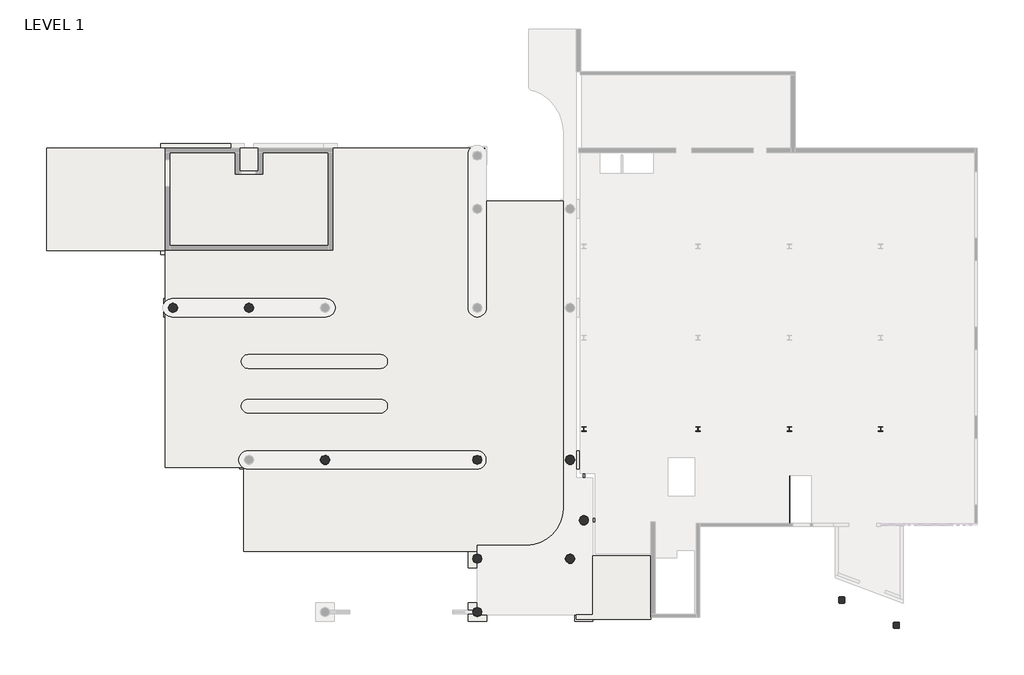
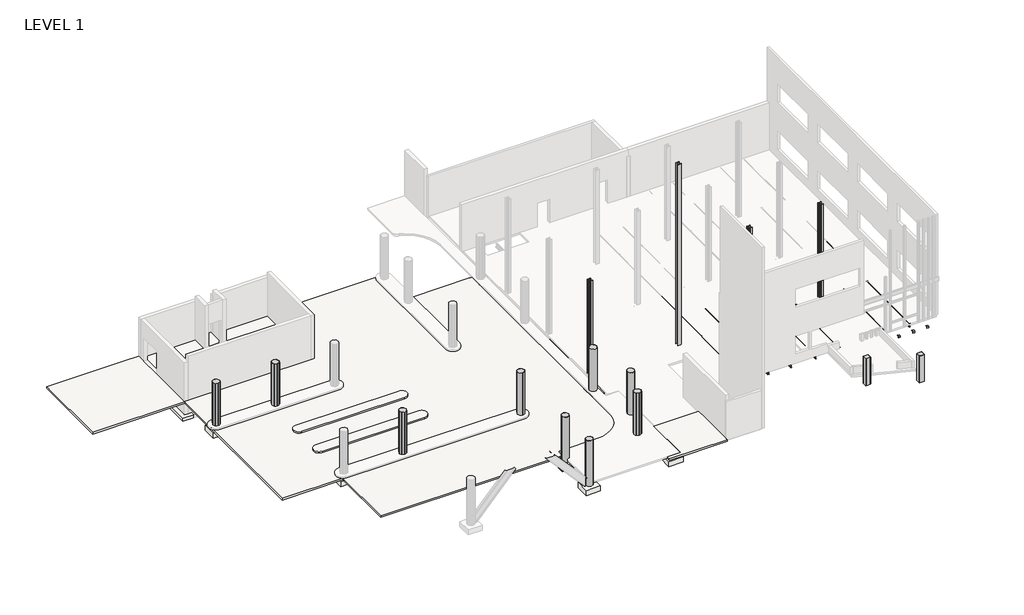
# One storey, part 2 of 3: 34 beams, 17 columns, 14 slabs, 2 footings.
"""IFC4 building model written with IfcOpenShell, lengths in millimetres."""

from ifc_helpers import new_model, si_unit, point, frame, frame_2d, origin, origin_with_axes, place, context, project, spatial, polyline, circle_curve, trimmed, segment, composite_curve, outline, extrude, faceted_brep, transform, mapped, element, save
from ifc_brep_helpers import plane_surface, cylinder_surface, advanced_brep
from components import l_angle_l6x4x1_2_f9bd59cc, w_wide_flange_w10x12_156ffe02, w_wide_flange_w10x12_987685fe, w_wide_flange_w12x14_3777ec73, w_wide_flange_w12x14_7ca4a03d, w_wide_flange_w12x14_c1d14cf3, w_wide_flange_w12x14_0b03b979, w_wide_flange_w12x14_b39f6d49, w_wide_flange_w12x14_55fb512f, w_wide_flange_w12x14_b6641778, w_wide_flange_w12x14_29cc9951, w_wide_flange_w12x14_701a969d, w_wide_flange_w12x16_65248359, w_wide_flange_w12x16_6d5fce7f, w_wide_flange_w12x16_f1ded87a, w_wide_flange_w12x16_4f3b8e2c, w_wide_flange_w16x26_d4bec6c4, w_wide_flange_w16x26_15b86ea2, w_wide_flange_w16x26_b3b18c45, w_wide_flange_w16x31_b4dcfb4a, w_wide_flange_w24x68_a3e40812, precast_rectangular_column_16x16_4fcb2295, w_wide_flange_column_w12x65_f58937c4, w_wide_flange_column_w12x65_26176f54

model = new_model("IFC4")

# Units and contexts
model_context = context("Model", 3, world=origin())
ifc_project = project(units=[si_unit("LENGTHUNIT", "METRE", prefix="MILLI")], contexts=[model_context])

# Site, building, storey
site = spatial("IfcSite", under=ifc_project)
building = spatial("IfcBuilding", under=site)
storey = spatial("IfcBuildingStorey", under=building, Name="LEVEL 1", Elevation=0.0)

# Beams
placement = place(None, origin())
l_angle_l6x4x1_2_shape = l_angle_l6x4x1_2_f9bd59cc(model_context)
element("IfcBeam", 1, ObjectType="L-Angle : L6X4X1/2", at=placement, inside=storey, context=model_context, shape_type="MappedRepresentation", body=[
    mapped(l_angle_l6x4x1_2_shape, transform((34002.6007265, -10406.7624619, -804.6839062), x_axis=(-1.0, 0.0, 0.0), y_axis=(0.0, -1.0, 0.0), z_axis=(0.0, 0.0, 1.0))),
])
element("IfcBeam", 2, ObjectType="L-Angle : L6X4X1/2", at=placement, inside=storey, context=model_context, shape_type="MappedRepresentation", body=[
    mapped(l_angle_l6x4x1_2_shape, transform((32773.8757265, -10406.7624619, -804.6839062), x_axis=(-1.0, 0.0, 0.0), y_axis=(0.0, -1.0, 0.0), z_axis=(0.0, 0.0, 1.0))),
])
element("IfcBeam", 3, ObjectType="L-Angle : L6X4X1/2", at=placement, inside=storey, context=model_context, shape_type="MappedRepresentation", body=[
    mapped(l_angle_l6x4x1_2_shape, transform((31554.6757265, -10406.7624619, -804.6839062), x_axis=(-1.0, 0.0, 0.0), y_axis=(0.0, -1.0, 0.0), z_axis=(0.0, 0.0, 1.0))),
])
element("IfcBeam", 4, ObjectType="L-Angle : L6X4X1/2", at=placement, inside=storey, context=model_context, shape_type="MappedRepresentation", body=[
    mapped(l_angle_l6x4x1_2_shape, transform((30335.4757265, -10406.7624619, -804.6839062), x_axis=(-1.0, 0.0, 0.0), y_axis=(0.0, -1.0, 0.0), z_axis=(0.0, 0.0, 1.0))),
])
element("IfcBeam", 5, ObjectType="L-Angle : L6X4X1/2", at=placement, inside=storey, context=model_context, shape_type="MappedRepresentation", body=[
    mapped(l_angle_l6x4x1_2_shape, transform((29116.2757265, -10406.7624619, -804.6839062), x_axis=(-1.0, 0.0, 0.0), y_axis=(0.0, -1.0, 0.0), z_axis=(0.0, 0.0, 1.0))),
])
w_wide_flange_w10x12_shape = w_wide_flange_w10x12_156ffe02(model_context)
element("IfcBeam", 6, ObjectType="W-Wide Flange : W10X12", at=placement, inside=storey, context=model_context, shape_type="MappedRepresentation", body=[
    mapped(w_wide_flange_w10x12_shape, transform((8608.7470917, -7131.2538682, -277.749), x_axis=(0.0, 1.0, 0.0), y_axis=(-1.0, 0.0, 0.0), z_axis=(0.0, 0.0, 1.0))),
])
w_wide_flange_w10x12_2_shape = w_wide_flange_w10x12_987685fe(model_context)
element("IfcBeam", 7, ObjectType="W-Wide Flange : W10X12", at=placement, inside=storey, context=model_context, shape_type="MappedRepresentation", body=[
    mapped(w_wide_flange_w10x12_2_shape, transform((8608.9507265, -1044.199082, -277.749), x_axis=(0.0, 1.0, 0.0), y_axis=(-1.0, 0.0, 0.0), z_axis=(0.0, 0.0, 1.0))),
])
w_wide_flange_w12x14_shape = w_wide_flange_w12x14_3777ec73(model_context)
element("IfcBeam", 8, ObjectType="W-Wide Flange : W12X14", at=placement, inside=storey, context=model_context, shape_type="MappedRepresentation", body=[
    mapped(w_wide_flange_w12x14_shape, transform((16228.9507265, -7295.5601182, -303.53), x_axis=(0.0, 1.0, 0.0), y_axis=(-1.0, 0.0, 0.0), z_axis=(0.0, 0.0, 1.0))),
])
w_wide_flange_w12x14_2_shape = w_wide_flange_w12x14_7ca4a03d(model_context)
element("IfcBeam", 9, ObjectType="W-Wide Flange : W12X14", at=placement, inside=storey, context=model_context, shape_type="MappedRepresentation", body=[
    mapped(w_wide_flange_w12x14_2_shape, transform((16228.9507265, -1044.199082, -303.53), x_axis=(0.0, 1.0, 0.0), y_axis=(-1.0, 0.0, 0.0), z_axis=(0.0, 0.0, 1.0))),
])
element("IfcBeam", 10, ObjectType="W-Wide Flange : W12X14", at=placement, inside=storey, context=model_context, shape_type="MappedRepresentation", body=[
    mapped(w_wide_flange_w12x14_2_shape, transform((28420.9507265, -1044.199082, -303.53), x_axis=(0.0, 1.0, 0.0), y_axis=(-1.0, 0.0, 0.0), z_axis=(0.0, 0.0, 1.0))),
])
w_wide_flange_w12x14_3_shape = w_wide_flange_w12x14_c1d14cf3(model_context)
element("IfcBeam", 11, ObjectType="W-Wide Flange : W12X14", at=placement, inside=storey, context=model_context, shape_type="MappedRepresentation", body=[
    mapped(w_wide_flange_w12x14_3_shape, transform((11148.9507265, -1035.2538682, -303.53), x_axis=(0.0, 1.0, 0.0), y_axis=(-1.0, 0.0, 0.0), z_axis=(0.0, 0.0, 1.0))),
])
element("IfcBeam", 12, ObjectType="W-Wide Flange : W12X14", at=placement, inside=storey, context=model_context, shape_type="MappedRepresentation", body=[
    mapped(w_wide_flange_w12x14_3_shape, transform((13688.9507265, -1035.2538682, -303.53), x_axis=(0.0, 1.0, 0.0), y_axis=(-1.0, 0.0, 0.0), z_axis=(0.0, 0.0, 1.0))),
])
w_wide_flange_w12x14_4_shape = w_wide_flange_w12x14_0b03b979(model_context)
element("IfcBeam", 13, ObjectType="W-Wide Flange : W12X14", at=placement, inside=storey, context=model_context, shape_type="MappedRepresentation", body=[
    mapped(w_wide_flange_w12x14_4_shape, transform((11148.9507265, -7131.2538682, -303.53), x_axis=(0.0, 1.0, 0.0), y_axis=(-1.0, 0.0, 0.0), z_axis=(0.0, 0.0, 1.0))),
])
element("IfcBeam", 14, ObjectType="W-Wide Flange : W12X14", at=placement, inside=storey, context=model_context, shape_type="MappedRepresentation", body=[
    mapped(w_wide_flange_w12x14_4_shape, transform((13688.9507265, -7131.2538682, -303.53), x_axis=(0.0, 1.0, 0.0), y_axis=(-1.0, 0.0, 0.0), z_axis=(0.0, 0.0, 1.0))),
])
w_wide_flange_w12x14_5_shape = w_wide_flange_w12x14_b39f6d49(model_context)
element("IfcBeam", 15, ObjectType="W-Wide Flange : W12X14", at=placement, inside=storey, context=model_context, shape_type="MappedRepresentation", body=[
    mapped(w_wide_flange_w12x14_5_shape, transform((18259.4478932, -7349.5351182, -151.13), x_axis=(0.0, 1.0, 0.0), y_axis=(-1.0, 0.0, 0.0), z_axis=(0.0, 0.0, 1.0))),
])
element("IfcBeam", 16, ObjectType="W-Wide Flange : W12X14", at=placement, inside=storey, context=model_context, shape_type="MappedRepresentation", body=[
    mapped(w_wide_flange_w12x14_5_shape, transform((24355.4478932, -7349.5351182, -151.13), x_axis=(0.0, 1.0, 0.0), y_axis=(-1.0, 0.0, 0.0), z_axis=(0.0, 0.0, 1.0))),
])
w_wide_flange_w12x14_6_shape = w_wide_flange_w12x14_55fb512f(model_context)
element("IfcBeam", 17, ObjectType="W-Wide Flange : W12X14", at=placement, inside=storey, context=model_context, shape_type="MappedRepresentation", body=[
    mapped(w_wide_flange_w12x14_6_shape, transform((20289.9450598, -7350.3288682, -151.13), x_axis=(0.0, 1.0, 0.0), y_axis=(-1.0, 0.0, 0.0), z_axis=(0.0, 0.0, 1.0))),
])
element("IfcBeam", 18, ObjectType="W-Wide Flange : W12X14", at=placement, inside=storey, context=model_context, shape_type="MappedRepresentation", body=[
    mapped(w_wide_flange_w12x14_6_shape, transform((26385.9450598, -7350.3288682, -151.13), x_axis=(0.0, 1.0, 0.0), y_axis=(-1.0, 0.0, 0.0), z_axis=(0.0, 0.0, 1.0))),
])
w_wide_flange_w12x14_7_shape = w_wide_flange_w12x14_b6641778(model_context)
element("IfcBeam", 19, ObjectType="W-Wide Flange : W12X14", at=placement, inside=storey, context=model_context, shape_type="MappedRepresentation", body=[
    mapped(w_wide_flange_w12x14_7_shape, transform((28420.9507265, -7328.8976182, -303.53), x_axis=(0.0, 1.0, 0.0), y_axis=(-1.0, 0.0, 0.0), z_axis=(0.0, 0.0, 1.0))),
])
w_wide_flange_w12x14_8_shape = w_wide_flange_w12x14_29cc9951(model_context)
element("IfcBeam", 20, ObjectType="W-Wide Flange : W12X14", at=placement, inside=storey, context=model_context, shape_type="MappedRepresentation", body=[
    mapped(w_wide_flange_w12x14_8_shape, transform((30451.4478932, -7328.8976182, -151.13), x_axis=(0.0, 1.0, 0.0), y_axis=(-1.0, 0.0, 0.0), z_axis=(0.0, 0.0, 1.0))),
])
w_wide_flange_w12x14_9_shape = w_wide_flange_w12x14_701a969d(model_context)
element("IfcBeam", 21, ObjectType="W-Wide Flange : W12X14", at=placement, inside=storey, context=model_context, shape_type="MappedRepresentation", body=[
    mapped(w_wide_flange_w12x14_9_shape, transform((32481.9450598, -7329.6913682, -151.13), x_axis=(0.0, 1.0, 0.0), y_axis=(-1.0, 0.0, 0.0), z_axis=(0.0, 0.0, 1.0))),
])
w_wide_flange_w12x16_shape = w_wide_flange_w12x16_65248359(model_context)
element("IfcBeam", 22, ObjectType="W-Wide Flange : W12X16", at=placement, inside=storey, context=model_context, shape_type="MappedRepresentation", body=[
    mapped(w_wide_flange_w12x16_shape, transform((22324.9507265, -1044.199082, -304.8), x_axis=(0.0, 1.0, 0.0), y_axis=(-1.0, 0.0, 0.0), z_axis=(0.0, 0.0, 1.0))),
])
w_wide_flange_w12x16_2_shape = w_wide_flange_w12x16_6d5fce7f(model_context)
element("IfcBeam", 23, ObjectType="W-Wide Flange : W12X16", at=placement, inside=storey, context=model_context, shape_type="MappedRepresentation", body=[
    mapped(w_wide_flange_w12x16_2_shape, transform((22320.4422265, -7294.7663682, -304.8), x_axis=(0.0, 1.0, 0.0), y_axis=(-1.0, 0.0, 0.0), z_axis=(0.0, 0.0, 1.0))),
])
w_wide_flange_w12x16_3_shape = w_wide_flange_w12x16_f1ded87a(model_context)
element("IfcBeam", 24, ObjectType="W-Wide Flange : W12X16", at=placement, inside=storey, context=model_context, shape_type="MappedRepresentation", body=[
    mapped(w_wide_flange_w12x16_3_shape, transform((18259.4478932, -1035.2538682, -152.4), x_axis=(0.0, 1.0, 0.0), y_axis=(-1.0, 0.0, 0.0), z_axis=(0.0, 0.0, 1.0))),
])
element("IfcBeam", 25, ObjectType="W-Wide Flange : W12X16", at=placement, inside=storey, context=model_context, shape_type="MappedRepresentation", body=[
    mapped(w_wide_flange_w12x16_3_shape, transform((20289.9450598, -1035.2538682, -152.4), x_axis=(0.0, 1.0, 0.0), y_axis=(-1.0, 0.0, 0.0), z_axis=(0.0, 0.0, 1.0))),
])
element("IfcBeam", 26, ObjectType="W-Wide Flange : W12X16", at=placement, inside=storey, context=model_context, shape_type="MappedRepresentation", body=[
    mapped(w_wide_flange_w12x16_3_shape, transform((24355.4478932, -1035.2538682, -152.4), x_axis=(0.0, 1.0, 0.0), y_axis=(-1.0, 0.0, 0.0), z_axis=(0.0, 0.0, 1.0))),
])
element("IfcBeam", 27, ObjectType="W-Wide Flange : W12X16", at=placement, inside=storey, context=model_context, shape_type="MappedRepresentation", body=[
    mapped(w_wide_flange_w12x16_3_shape, transform((26385.9450598, -1035.2538682, -152.4), x_axis=(0.0, 1.0, 0.0), y_axis=(-1.0, 0.0, 0.0), z_axis=(0.0, 0.0, 1.0))),
])
w_wide_flange_w12x16_4_shape = w_wide_flange_w12x16_4f3b8e2c(model_context)
element("IfcBeam", 28, ObjectType="W-Wide Flange : W12X16", at=placement, inside=storey, context=model_context, shape_type="MappedRepresentation", body=[
    mapped(w_wide_flange_w12x16_4_shape, transform((30451.4478932, -1035.2538682, -152.4), x_axis=(0.0, 1.0, 0.0), y_axis=(-1.0, 0.0, 0.0), z_axis=(0.0, 0.0, 1.0))),
])
element("IfcBeam", 29, ObjectType="W-Wide Flange : W12X16", at=placement, inside=storey, context=model_context, shape_type="MappedRepresentation", body=[
    mapped(w_wide_flange_w12x16_4_shape, transform((32481.9450598, -1035.2538682, -152.4), x_axis=(0.0, 1.0, 0.0), y_axis=(-1.0, 0.0, 0.0), z_axis=(0.0, 0.0, 1.0))),
])
w_wide_flange_w16x26_shape = w_wide_flange_w16x26_d4bec6c4(model_context)
element("IfcBeam", 30, ObjectType="W-Wide Flange : W16X26", at=placement, inside=storey, context=model_context, shape_type="MappedRepresentation", body=[
    mapped(w_wide_flange_w16x26_shape, transform((12418.7470917, -4083.2538682, -351.79), x_axis=(1.0, 0.0, 0.0), y_axis=(0.0, 1.0, 0.0), z_axis=(0.0, 0.0, 1.0))),
])
w_wide_flange_w16x26_2_shape = w_wide_flange_w16x26_15b86ea2(model_context)
element("IfcBeam", 31, ObjectType="W-Wide Flange : W16X26", at=placement, inside=storey, context=model_context, shape_type="MappedRepresentation", body=[
    mapped(w_wide_flange_w16x26_2_shape, transform((19277.1543613, -4083.2538682, -351.79), x_axis=(-1.0, 0.0, 0.0), y_axis=(0.0, -1.0, 0.0), z_axis=(0.0, 0.0, 1.0))),
])
w_wide_flange_w16x26_3_shape = w_wide_flange_w16x26_b3b18c45(model_context)
element("IfcBeam", 32, ObjectType="W-Wide Flange : W16X26", at=placement, inside=storey, context=model_context, shape_type="MappedRepresentation", body=[
    mapped(w_wide_flange_w16x26_3_shape, transform((25372.7470917, -4083.2538682, -351.79), x_axis=(1.0, 0.0, 0.0), y_axis=(0.0, 1.0, 0.0), z_axis=(0.0, 0.0, 1.0))),
])
w_wide_flange_w16x31_shape = w_wide_flange_w16x31_b4dcfb4a(model_context)
element("IfcBeam", 33, ObjectType="W-Wide Flange : W16X31", at=placement, inside=storey, context=model_context, shape_type="MappedRepresentation", body=[
    mapped(w_wide_flange_w16x31_shape, transform((31619.8650439, -4083.2538682, -354.33), x_axis=(-1.0, 0.0, 0.0), y_axis=(0.0, -1.0, 0.0), z_axis=(0.0, 0.0, 1.0))),
])
w_wide_flange_w24x68_shape = w_wide_flange_w24x68_a3e40812(model_context)
element("IfcBeam", 34, ObjectType="W-Wide Flange : W24X68", at=placement, inside=storey, context=model_context, shape_type="MappedRepresentation", body=[
    mapped(w_wide_flange_w24x68_shape, transform((12418.8489091, -10179.2538682, -453.39), x_axis=(1.0, 0.0, 0.0), y_axis=(0.0, 1.0, 0.0), z_axis=(0.0, 0.0, 1.0))),
])

# Columns
element("IfcColumn", 35, ObjectType="Concrete-Round-Column : 24\"", at=placement, inside=storey, context=model_context, shape_type="SweptSolid", body=[
    extrude(outline(composite_curve([segment(trimmed(circle_curve(frame_2d((-18823.0492735, 4017.7586318)), 304.8), [point((-19127.8492735, 4017.7586318))], [point((-18518.2492735, 4017.7586318))], False, "CARTESIAN"), True, "CONTINUOUS"), segment(trimmed(circle_curve(frame_2d((-18823.0492735, 4017.7586318)), 304.8), [point((-18518.2492735, 4017.7586318))], [point((-19127.8492735, 4017.7586318))], False, "CARTESIAN"), True, "CONTINUOUS")], self_intersect=False)), frame((0.0, 0.0, -152.4), z_axis=(0.0, 0.0, 1.0), x_axis=(1.0, 0.0, 0.0)), (0.0, 0.0, 1.0), 4140.2),
    extrude(outline(composite_curve([segment(trimmed(circle_curve(frame_2d((-18823.0492735, 4017.7586318)), 311.15), [point((-19134.1992735, 4017.7586318))], [point((-18511.8992735, 4017.7586318))], False, "CARTESIAN"), True, "CONTINUOUS"), segment(trimmed(circle_curve(frame_2d((-18823.0492735, 4017.7586318)), 311.15), [point((-18511.8992735, 4017.7586318))], [point((-19134.1992735, 4017.7586318))], False, "CARTESIAN"), True, "CONTINUOUS")], self_intersect=False), holes=[composite_curve([segment(trimmed(circle_curve(frame_2d((-18823.0492735, 4017.7586318)), 304.8), [point((-19127.8492735, 4017.7586318))], [point((-18518.2492735, 4017.7586318))], True, "CARTESIAN"), True, "CONTINUOUS"), segment(trimmed(circle_curve(frame_2d((-18823.0492735, 4017.7586318)), 304.8), [point((-18518.2492735, 4017.7586318))], [point((-19127.8492735, 4017.7586318))], True, "CARTESIAN"), True, "CONTINUOUS")], self_intersect=False)]), frame((0.0, 0.0, -152.4), z_axis=(0.0, 0.0, 1.0), x_axis=(1.0, 0.0, 0.0)), (0.0, 0.0, 1.0), 4140.2),
])
element("IfcColumn", 36, ObjectType="Concrete-Round-Column : 24\"", at=placement, inside=storey, context=model_context, shape_type="SweptSolid", body=[
    extrude(outline(composite_curve([segment(trimmed(circle_curve(frame_2d((-13743.0492735, 4017.7586318)), 304.8), [point((-14047.8492735, 4017.7586318))], [point((-13438.2492735, 4017.7586318))], False, "CARTESIAN"), True, "CONTINUOUS"), segment(trimmed(circle_curve(frame_2d((-13743.0492735, 4017.7586318)), 304.8), [point((-13438.2492735, 4017.7586318))], [point((-14047.8492735, 4017.7586318))], False, "CARTESIAN"), True, "CONTINUOUS")], self_intersect=False)), frame((0.0, 0.0, -152.4), z_axis=(0.0, 0.0, 1.0), x_axis=(1.0, 0.0, 0.0)), (0.0, 0.0, 1.0), 4140.2),
    extrude(outline(composite_curve([segment(trimmed(circle_curve(frame_2d((-13743.0492735, 4017.7586318)), 311.15), [point((-14054.1992735, 4017.7586318))], [point((-13431.8992735, 4017.7586318))], False, "CARTESIAN"), True, "CONTINUOUS"), segment(trimmed(circle_curve(frame_2d((-13743.0492735, 4017.7586318)), 311.15), [point((-13431.8992735, 4017.7586318))], [point((-14054.1992735, 4017.7586318))], False, "CARTESIAN"), True, "CONTINUOUS")], self_intersect=False), holes=[composite_curve([segment(trimmed(circle_curve(frame_2d((-13743.0492735, 4017.7586318)), 304.8), [point((-14047.8492735, 4017.7586318))], [point((-13438.2492735, 4017.7586318))], True, "CARTESIAN"), True, "CONTINUOUS"), segment(trimmed(circle_curve(frame_2d((-13743.0492735, 4017.7586318)), 304.8), [point((-13438.2492735, 4017.7586318))], [point((-14047.8492735, 4017.7586318))], True, "CARTESIAN"), True, "CONTINUOUS")], self_intersect=False)]), frame((0.0, 0.0, -152.4), z_axis=(0.0, 0.0, 1.0), x_axis=(1.0, 0.0, 0.0)), (0.0, 0.0, 1.0), 4140.2),
])
element("IfcColumn", 37, ObjectType="Concrete-Round-Column : 24\"", at=placement, inside=storey, context=model_context, shape_type="SweptSolid", body=[
    extrude(outline(composite_curve([segment(trimmed(circle_curve(frame_2d((-8663.0492735, -6142.2413682)), 304.8), [point((-8967.8492735, -6142.2413682))], [point((-8358.2492735, -6142.2413682))], False, "CARTESIAN"), True, "CONTINUOUS"), segment(trimmed(circle_curve(frame_2d((-8663.0492735, -6142.2413682)), 304.8), [point((-8358.2492735, -6142.2413682))], [point((-8967.8492735, -6142.2413682))], False, "CARTESIAN"), True, "CONTINUOUS")], self_intersect=False)), frame((0.0, 0.0, -152.4), z_axis=(0.0, 0.0, 1.0), x_axis=(1.0, 0.0, 0.0)), (0.0, 0.0, 1.0), 4140.2),
    extrude(outline(composite_curve([segment(trimmed(circle_curve(frame_2d((-8663.0492735, -6142.2413682)), 311.15), [point((-8974.1992735, -6142.2413682))], [point((-8351.8992735, -6142.2413682))], False, "CARTESIAN"), True, "CONTINUOUS"), segment(trimmed(circle_curve(frame_2d((-8663.0492735, -6142.2413682)), 311.15), [point((-8351.8992735, -6142.2413682))], [point((-8974.1992735, -6142.2413682))], False, "CARTESIAN"), True, "CONTINUOUS")], self_intersect=False), holes=[composite_curve([segment(trimmed(circle_curve(frame_2d((-8663.0492735, -6142.2413682)), 304.8), [point((-8967.8492735, -6142.2413682))], [point((-8358.2492735, -6142.2413682))], True, "CARTESIAN"), True, "CONTINUOUS"), segment(trimmed(circle_curve(frame_2d((-8663.0492735, -6142.2413682)), 304.8), [point((-8358.2492735, -6142.2413682))], [point((-8967.8492735, -6142.2413682))], True, "CARTESIAN"), True, "CONTINUOUS")], self_intersect=False)]), frame((0.0, 0.0, -152.4), z_axis=(0.0, 0.0, 1.0), x_axis=(1.0, 0.0, 0.0)), (0.0, 0.0, 1.0), 4140.2),
])
element("IfcColumn", 38, ObjectType="Concrete-Round-Column : 24\"", at=placement, inside=storey, context=model_context, shape_type="SweptSolid", body=[
    extrude(outline(composite_curve([segment(trimmed(circle_curve(frame_2d((1496.9507265, -6142.2413682)), 304.8), [point((1192.1507265, -6142.2413682))], [point((1801.7507265, -6142.2413682))], False, "CARTESIAN"), True, "CONTINUOUS"), segment(trimmed(circle_curve(frame_2d((1496.9507265, -6142.2413682)), 304.8), [point((1801.7507265, -6142.2413682))], [point((1192.1507265, -6142.2413682))], False, "CARTESIAN"), True, "CONTINUOUS")], self_intersect=False)), frame((0.0, 0.0, -152.4), z_axis=(0.0, 0.0, 1.0), x_axis=(1.0, 0.0, 0.0)), (0.0, 0.0, 1.0), 4140.2),
    extrude(outline(composite_curve([segment(trimmed(circle_curve(frame_2d((1496.9507265, -6142.2413682)), 311.15), [point((1185.8007265, -6142.2413682))], [point((1808.1007265, -6142.2413682))], False, "CARTESIAN"), True, "CONTINUOUS"), segment(trimmed(circle_curve(frame_2d((1496.9507265, -6142.2413682)), 311.15), [point((1808.1007265, -6142.2413682))], [point((1185.8007265, -6142.2413682))], False, "CARTESIAN"), True, "CONTINUOUS")], self_intersect=False), holes=[composite_curve([segment(trimmed(circle_curve(frame_2d((1496.9507265, -6142.2413682)), 304.8), [point((1192.1507265, -6142.2413682))], [point((1801.7507265, -6142.2413682))], True, "CARTESIAN"), True, "CONTINUOUS"), segment(trimmed(circle_curve(frame_2d((1496.9507265, -6142.2413682)), 304.8), [point((1801.7507265, -6142.2413682))], [point((1192.1507265, -6142.2413682))], True, "CARTESIAN"), True, "CONTINUOUS")], self_intersect=False)]), frame((0.0, 0.0, -152.4), z_axis=(0.0, 0.0, 1.0), x_axis=(1.0, 0.0, 0.0)), (0.0, 0.0, 1.0), 4140.2),
])
element("IfcColumn", 39, ObjectType="Concrete-Round-Column : 24\"", at=placement, inside=storey, context=model_context, shape_type="SweptSolid", body=[
    extrude(outline(composite_curve([segment(trimmed(circle_curve(frame_2d((1496.9507265, -12746.2413682)), 304.8), [point((1192.1507265, -12746.2413682))], [point((1801.7507265, -12746.2413682))], False, "CARTESIAN"), True, "CONTINUOUS"), segment(trimmed(circle_curve(frame_2d((1496.9507265, -12746.2413682)), 304.8), [point((1801.7507265, -12746.2413682))], [point((1192.1507265, -12746.2413682))], False, "CARTESIAN"), True, "CONTINUOUS")], self_intersect=False)), frame((0.0, 0.0, -152.4), z_axis=(0.0, 0.0, 1.0), x_axis=(1.0, 0.0, 0.0)), (0.0, 0.0, 1.0), 4140.2),
    extrude(outline(composite_curve([segment(trimmed(circle_curve(frame_2d((1496.9507265, -12746.2413682)), 311.15), [point((1185.8007265, -12746.2413682))], [point((1808.1007265, -12746.2413682))], False, "CARTESIAN"), True, "CONTINUOUS"), segment(trimmed(circle_curve(frame_2d((1496.9507265, -12746.2413682)), 311.15), [point((1808.1007265, -12746.2413682))], [point((1185.8007265, -12746.2413682))], False, "CARTESIAN"), True, "CONTINUOUS")], self_intersect=False), holes=[composite_curve([segment(trimmed(circle_curve(frame_2d((1496.9507265, -12746.2413682)), 304.8), [point((1192.1507265, -12746.2413682))], [point((1801.7507265, -12746.2413682))], True, "CARTESIAN"), True, "CONTINUOUS"), segment(trimmed(circle_curve(frame_2d((1496.9507265, -12746.2413682)), 304.8), [point((1801.7507265, -12746.2413682))], [point((1192.1507265, -12746.2413682))], True, "CARTESIAN"), True, "CONTINUOUS")], self_intersect=False)]), frame((0.0, 0.0, -152.4), z_axis=(0.0, 0.0, 1.0), x_axis=(1.0, 0.0, 0.0)), (0.0, 0.0, 1.0), 4140.2),
])
element("IfcColumn", 40, ObjectType="Concrete-Round-Column : 24\"", at=placement, inside=storey, context=model_context, shape_type="SweptSolid", body=[
    extrude(outline(composite_curve([segment(trimmed(circle_curve(frame_2d((1496.9507265, -16302.2413682)), 304.8), [point((1192.1507265, -16302.2413682))], [point((1801.7507265, -16302.2413682))], False, "CARTESIAN"), True, "CONTINUOUS"), segment(trimmed(circle_curve(frame_2d((1496.9507265, -16302.2413682)), 304.8), [point((1801.7507265, -16302.2413682))], [point((1192.1507265, -16302.2413682))], False, "CARTESIAN"), True, "CONTINUOUS")], self_intersect=False)), frame((0.0, 0.0, -152.4), z_axis=(0.0, 0.0, 1.0), x_axis=(1.0, 0.0, 0.0)), (0.0, 0.0, 1.0), 4140.2),
    extrude(outline(composite_curve([segment(trimmed(circle_curve(frame_2d((1496.9507265, -16302.2413682)), 311.15), [point((1185.8007265, -16302.2413682))], [point((1808.1007265, -16302.2413682))], False, "CARTESIAN"), True, "CONTINUOUS"), segment(trimmed(circle_curve(frame_2d((1496.9507265, -16302.2413682)), 311.15), [point((1808.1007265, -16302.2413682))], [point((1185.8007265, -16302.2413682))], False, "CARTESIAN"), True, "CONTINUOUS")], self_intersect=False), holes=[composite_curve([segment(trimmed(circle_curve(frame_2d((1496.9507265, -16302.2413682)), 304.8), [point((1192.1507265, -16302.2413682))], [point((1801.7507265, -16302.2413682))], True, "CARTESIAN"), True, "CONTINUOUS"), segment(trimmed(circle_curve(frame_2d((1496.9507265, -16302.2413682)), 304.8), [point((1801.7507265, -16302.2413682))], [point((1192.1507265, -16302.2413682))], True, "CARTESIAN"), True, "CONTINUOUS")], self_intersect=False)]), frame((0.0, 0.0, -152.4), z_axis=(0.0, 0.0, 1.0), x_axis=(1.0, 0.0, 0.0)), (0.0, 0.0, 1.0), 4140.2),
])
element("IfcColumn", 41, ObjectType="Concrete-Round-Column : 24\"", at=placement, inside=storey, context=model_context, shape_type="SweptSolid", body=[
    extrude(outline(composite_curve([segment(trimmed(circle_curve(frame_2d((7694.5507265, -12746.2413682)), 304.8), [point((7389.7507265, -12746.2413682))], [point((7999.3507265, -12746.2413682))], False, "CARTESIAN"), True, "CONTINUOUS"), segment(trimmed(circle_curve(frame_2d((7694.5507265, -12746.2413682)), 304.8), [point((7999.3507265, -12746.2413682))], [point((7389.7507265, -12746.2413682))], False, "CARTESIAN"), True, "CONTINUOUS")], self_intersect=False)), origin_with_axes(), (0.0, 0.0, 1.0), 3987.8),
    extrude(outline(composite_curve([segment(trimmed(circle_curve(frame_2d((7694.5507265, -12746.2413682)), 311.15), [point((7383.4007265, -12746.2413682))], [point((8005.7007265, -12746.2413682))], False, "CARTESIAN"), True, "CONTINUOUS"), segment(trimmed(circle_curve(frame_2d((7694.5507265, -12746.2413682)), 311.15), [point((8005.7007265, -12746.2413682))], [point((7383.4007265, -12746.2413682))], False, "CARTESIAN"), True, "CONTINUOUS")], self_intersect=False), holes=[composite_curve([segment(trimmed(circle_curve(frame_2d((7694.5507265, -12746.2413682)), 304.8), [point((7389.7507265, -12746.2413682))], [point((7999.3507265, -12746.2413682))], True, "CARTESIAN"), True, "CONTINUOUS"), segment(trimmed(circle_curve(frame_2d((7694.5507265, -12746.2413682)), 304.8), [point((7999.3507265, -12746.2413682))], [point((7389.7507265, -12746.2413682))], True, "CARTESIAN"), True, "CONTINUOUS")], self_intersect=False)]), origin_with_axes(), (0.0, 0.0, 1.0), 3987.8),
])
element("IfcColumn", 42, ObjectType="Concrete-Round-Column : 24\"", at=placement, inside=storey, context=model_context, shape_type="SweptSolid", body=[
    extrude(outline(composite_curve([segment(trimmed(circle_curve(frame_2d((8608.9507265, -10179.2538682)), 304.8), [point((8304.1507265, -10179.2538682))], [point((8913.7507265, -10179.2538682))], False, "CARTESIAN"), True, "CONTINUOUS"), segment(trimmed(circle_curve(frame_2d((8608.9507265, -10179.2538682)), 304.8), [point((8913.7507265, -10179.2538682))], [point((8304.1507265, -10179.2538682))], False, "CARTESIAN"), True, "CONTINUOUS")], self_intersect=False)), origin_with_axes(), (0.0, 0.0, 1.0), 3987.8),
    extrude(outline(composite_curve([segment(trimmed(circle_curve(frame_2d((8608.9507265, -10179.2538682)), 311.15), [point((8297.8007265, -10179.2538682))], [point((8920.1007265, -10179.2538682))], False, "CARTESIAN"), True, "CONTINUOUS"), segment(trimmed(circle_curve(frame_2d((8608.9507265, -10179.2538682)), 311.15), [point((8920.1007265, -10179.2538682))], [point((8297.8007265, -10179.2538682))], False, "CARTESIAN"), True, "CONTINUOUS")], self_intersect=False), holes=[composite_curve([segment(trimmed(circle_curve(frame_2d((8608.9507265, -10179.2538682)), 304.8), [point((8304.1507265, -10179.2538682))], [point((8913.7507265, -10179.2538682))], True, "CARTESIAN"), True, "CONTINUOUS"), segment(trimmed(circle_curve(frame_2d((8608.9507265, -10179.2538682)), 304.8), [point((8913.7507265, -10179.2538682))], [point((8304.1507265, -10179.2538682))], True, "CARTESIAN"), True, "CONTINUOUS")], self_intersect=False)]), origin_with_axes(), (0.0, 0.0, 1.0), 3987.8),
])
element("IfcColumn", 43, ObjectType="Concrete-Round-Column : 24\"", at=placement, inside=storey, context=model_context, shape_type="SweptSolid", body=[
    extrude(outline(composite_curve([segment(trimmed(circle_curve(frame_2d((7694.5507265, -6142.2413682)), 304.8), [point((7389.7507265, -6142.2413682))], [point((7999.3507265, -6142.2413682))], False, "CARTESIAN"), True, "CONTINUOUS"), segment(trimmed(circle_curve(frame_2d((7694.5507265, -6142.2413682)), 304.8), [point((7999.3507265, -6142.2413682))], [point((7389.7507265, -6142.2413682))], False, "CARTESIAN"), True, "CONTINUOUS")], self_intersect=False)), origin_with_axes(), (0.0, 0.0, 1.0), 3987.8),
    extrude(outline(composite_curve([segment(trimmed(circle_curve(frame_2d((7694.5507265, -6142.2413682)), 311.15), [point((7383.4007265, -6142.2413682))], [point((8005.7007265, -6142.2413682))], False, "CARTESIAN"), True, "CONTINUOUS"), segment(trimmed(circle_curve(frame_2d((7694.5507265, -6142.2413682)), 311.15), [point((8005.7007265, -6142.2413682))], [point((7383.4007265, -6142.2413682))], False, "CARTESIAN"), True, "CONTINUOUS")], self_intersect=False), holes=[composite_curve([segment(trimmed(circle_curve(frame_2d((7694.5507265, -6142.2413682)), 304.8), [point((7389.7507265, -6142.2413682))], [point((7999.3507265, -6142.2413682))], True, "CARTESIAN"), True, "CONTINUOUS"), segment(trimmed(circle_curve(frame_2d((7694.5507265, -6142.2413682)), 304.8), [point((7999.3507265, -6142.2413682))], [point((7389.7507265, -6142.2413682))], True, "CARTESIAN"), True, "CONTINUOUS")], self_intersect=False)]), origin_with_axes(), (0.0, 0.0, 1.0), 3987.8),
])
precast_rectangular_column_16x16_shape = precast_rectangular_column_16x16_4fcb2295(model_context)
element("IfcColumn", 44, ObjectType="Precast-Rectangular Column : 16X16", at=placement, inside=storey, context=model_context, shape_type="MappedRepresentation", body=[
    mapped(precast_rectangular_column_16x16_shape, transform((25828.296921, -15512.1689811, 0.0), x_axis=(1.0, 0.0, 0.0), y_axis=(0.0, 1.0, 0.0), z_axis=(0.0, 0.0, 1.0))),
])
element("IfcColumn", 45, ObjectType="Precast-Rectangular Column : 16X16", at=placement, inside=storey, context=model_context, shape_type="MappedRepresentation", body=[
    mapped(precast_rectangular_column_16x16_shape, transform((29471.6720917, -17193.094482, 0.0), x_axis=(1.0, 0.0, 0.0), y_axis=(0.0, 1.0, 0.0), z_axis=(0.0, 0.0, 1.0))),
])
element("IfcColumn", 46, ObjectType="Precast-Rectangular Column : 16X16", at=placement, inside=storey, context=model_context, shape_type="MappedRepresentation", body=[
    mapped(precast_rectangular_column_16x16_shape, transform((29471.6720917, -17193.094482, 0.0), x_axis=(1.0, 0.0, 0.0), y_axis=(0.0, 1.0, 0.0), z_axis=(0.0, 0.0, 1.0))),
])
element("IfcColumn", 47, ObjectType="Precast-Rectangular Column : 16X16", at=placement, inside=storey, context=model_context, shape_type="MappedRepresentation", body=[
    mapped(precast_rectangular_column_16x16_shape, transform((25828.296921, -15512.1689811, 0.0), x_axis=(1.0, 0.0, 0.0), y_axis=(0.0, 1.0, 0.0), z_axis=(0.0, 0.0, 1.0))),
])
w_wide_flange_column_w12x65_shape = w_wide_flange_column_w12x65_f58937c4(model_context)
element("IfcColumn", 48, ObjectType="W-Wide Flange-Column : W12X65", at=placement, inside=storey, context=model_context, shape_type="MappedRepresentation", body=[
    mapped(w_wide_flange_column_w12x65_shape, transform((8608.9507265, -4083.2538682, 0.0), x_axis=(1.0, 0.0, 0.0), y_axis=(0.0, 1.0, 0.0), z_axis=(0.0, 0.0, 1.0))),
])
element("IfcColumn", 49, ObjectType="W-Wide Flange-Column : W12X65", at=placement, inside=storey, context=model_context, shape_type="MappedRepresentation", body=[
    mapped(w_wide_flange_column_w12x65_shape, transform((22324.9507265, -4083.2538682, 0.0), x_axis=(1.0, 0.0, 0.0), y_axis=(0.0, 1.0, 0.0), z_axis=(0.0, 0.0, 1.0))),
])
element("IfcColumn", 50, ObjectType="W-Wide Flange-Column : W12X65", at=placement, inside=storey, context=model_context, shape_type="MappedRepresentation", body=[
    mapped(w_wide_flange_column_w12x65_shape, transform((28420.9507265, -4083.2538682, 0.0), x_axis=(1.0, 0.0, 0.0), y_axis=(0.0, 1.0, 0.0), z_axis=(0.0, 0.0, 1.0))),
])
w_wide_flange_column_w12x65_2_shape = w_wide_flange_column_w12x65_26176f54(model_context)
element("IfcColumn", 51, ObjectType="W-Wide Flange-Column : W12X65", at=placement, inside=storey, context=model_context, shape_type="MappedRepresentation", body=[
    mapped(w_wide_flange_column_w12x65_2_shape, transform((16228.9507265, -4083.2538682, 0.0), x_axis=(1.0, 0.0, 0.0), y_axis=(0.0, 1.0, 0.0), z_axis=(0.0, 0.0, 1.0))),
])

# Footings
element("IfcFooting", 52, ObjectType="Bearing Footing - 36\" x 12\"", at=placement, inside=storey, context=model_context, shape_type="Brep", body=[
    faceted_brep([(-19636.0529083, 14990.5586318, -1219.2), (-19636.0529083, 14076.1586318, -1219.2), (-18721.6529083, 14076.1586318, -1219.2), (-14962.4529083, 14076.1586318, -1219.2), (-14962.4529083, 14990.5586318, -1219.2), (-19636.0529083, 14076.1586318, -1524.0), (-18721.6529083, 14076.1586318, -1524.0), (-14962.4529083, 14076.1586318, -1524.0), (-19636.0529083, 14990.5586318, -1524.0), (-14962.4529083, 14990.5586318, -1524.0)], [[[0, 1, 2, 3, 4]], [[1, 5, 6, 7, 3, 2]], [[5, 8, 9, 7, 6]], [[8, 0, 4, 9]], [[1, 0, 8, 5]], [[4, 3, 7, 9]]]),
])
element("IfcFooting", 53, ObjectType="Bearing Footing - 36\" x 12\"", at=placement, inside=storey, context=model_context, shape_type="Brep", body=[
    faceted_brep([(-19636.0529083, 7573.7586318, -1219.2), (-18721.6529083, 7573.7586318, -1219.2), (-18721.6529083, 8488.1586318, -1219.2), (-18721.6529083, 14076.1586318, -1219.2), (-19636.0529083, 14076.1586318, -1219.2), (-18721.6529083, 7573.7586318, -1524.0), (-18721.6529083, 8488.1586318, -1524.0), (-18721.6529083, 14076.1586318, -1524.0), (-19636.0529083, 7573.7586318, -1524.0), (-19636.0529083, 14076.1586318, -1524.0)], [[[0, 1, 2, 3, 4]], [[1, 5, 6, 7, 3, 2]], [[5, 8, 9, 7, 6]], [[8, 0, 4, 9]], [[1, 0, 8, 5]], [[4, 3, 7, 9]]]),
])

# Slabs
element("IfcSlab", 54, ObjectType="6\" Foundation Slab", at=placement, inside=storey, context=model_context, shape_type="AdvancedBrep", body=[
    advanced_brep(
    [(-19331.2529083, 7824.5542432, -152.4), (-27256.0529083, 7824.5542432, -152.4), (-27256.0529083, 14685.7586318, -152.4), (2004.7470917, 14685.7586318, -152.4), (2004.7470917, 11129.7586318, -152.4), (7084.9507265, 11129.7586318, -152.4), (7253.6689565, 11129.7586318, -152.4), (7253.6689565, 10012.1586318, -152.4), (7253.6689565, 4627.3586318, -152.4), (7253.6689565, 3408.1586318, -152.4), (7253.6689565, -5532.6413682, -152.4), (7253.6689565, -6751.8413682, -152.4), (7253.6689565, -9809.3682806, -152.4), (4815.2689565, -12247.7682806, -152.4), (-14098.8529083, -12247.7682806, -152.4), (-14098.8529083, -6650.2413682, -152.4), (-19331.2529083, -6650.2413682, -152.4), (-19331.2529083, 7824.5542432, 0.0), (-19331.2529083, -6650.2413682, 0.0), (-14098.8529083, -6650.2413682, 0.0), (-14098.8529083, -12247.7682806, 0.0), (4815.2689565, -12247.7682806, 0.0), (7253.6689565, -9809.3682806, 0.0), (7253.6689565, -6751.8413682, 0.0), (7253.6689565, -5532.6413682, 0.0), (7253.6689565, 3408.1586318, 0.0), (7253.6689565, 4627.3586318, 0.0), (7253.6689565, 10012.1586318, 0.0), (7253.6689565, 11129.7586318, 0.0), (7084.9507265, 11129.7586318, 0.0), (2004.7470917, 11129.7586318, 0.0), (2004.7470917, 14685.7586318, 0.0), (-27256.0529083, 14685.7586318, 0.0), (-27256.0529083, 7824.5542432, 0.0)],
    [
        (0, 1),
        (1, 2),
        (2, 3),
        (3, 4),
        (4, 5),
        (5, 6),
        (6, 7),
        (7, 8),
        (8, 9),
        (9, 10),
        (10, 11),
        (11, 12),
        (12, 13, circle_curve(frame((4815.2689565, -9809.3682806, -152.4), z_axis=(0.0, 0.0, -1.0), x_axis=(1.0, 0.0, 0.0)), 2438.4)),
        (13, 14),
        (14, 15),
        (15, 16),
        (16, 0),
        (17, 18),
        (18, 19),
        (19, 20),
        (20, 21),
        (21, 22, circle_curve(frame((4815.2689565, -9809.3682806, 0.0), z_axis=(0.0, 0.0, 1.0), x_axis=(1.0, 0.0, 0.0)), 2438.4)),
        (22, 23),
        (23, 24),
        (24, 25),
        (25, 26),
        (26, 27),
        (27, 28),
        (28, 29),
        (29, 30),
        (30, 31),
        (31, 32),
        (32, 33),
        (33, 17),
        (2, 32),
        (31, 3),
        (30, 4),
        (28, 6),
        (22, 12),
        (21, 13),
        (20, 14),
        (19, 15),
        (18, 16),
        (17, 0),
        (33, 1),
    ],
    [
        plane_surface(frame((-7393.2529083, 7824.5542432, -152.4), z_axis=(0.0, 0.0, -1.0), x_axis=(-1.0, 0.0, 0.0))),
        plane_surface(frame((-7393.2529083, 7824.5542432, 0.0), z_axis=(0.0, 0.0, 1.0), x_axis=(1.0, 0.0, 0.0))),
        plane_surface(frame((-27256.0529083, 14685.7586318, -152.4), z_axis=(0.0, 1.0, 0.0), x_axis=(0.0, 0.0, 1.0))),
        plane_surface(frame((2004.7470917, 14685.7586318, -152.4), z_axis=(1.0, 0.0, 0.0), x_axis=(0.0, 0.0, 1.0))),
        plane_surface(frame((2004.7470917, 11129.7586318, -152.4), z_axis=(0.0, 1.0, 0.0), x_axis=(0.0, 0.0, 1.0))),
        plane_surface(frame((7253.6689565, 11129.7586318, -152.4), z_axis=(1.0, 0.0, 0.0), x_axis=(0.0, 0.0, 1.0))),
        cylinder_surface(frame((4815.2689565, -9809.3682806, 0.0), z_axis=(0.0, 0.0, -1.0), x_axis=(1.0, 0.0, 0.0)), 2438.4),
        plane_surface(frame((4815.2689565, -12247.7682806, -152.4), z_axis=(0.0, -1.0, 0.0), x_axis=(0.0, 0.0, 1.0))),
        plane_surface(frame((-14098.8529083, -12247.7682806, -152.4), z_axis=(-1.0, 0.0, 0.0), x_axis=(0.0, 0.0, 1.0))),
        plane_surface(frame((-14098.8529083, -6650.2413682, -152.4), z_axis=(0.0, -1.0, 0.0), x_axis=(0.0, 0.0, 1.0))),
        plane_surface(frame((-19331.2529083, -6650.2413682, -152.4), z_axis=(-1.0, 0.0, 0.0), x_axis=(0.0, 0.0, 1.0))),
        plane_surface(frame((-19331.2529083, 7824.5542432, -152.4), z_axis=(0.0, -1.0, 0.0), x_axis=(0.0, 0.0, 1.0))),
        plane_surface(frame((-27256.0529083, 7824.5542432, -152.4), z_axis=(-1.0, 0.0, 0.0), x_axis=(0.0, 0.0, 1.0))),
    ],
    [
        (0, [[1, 2, 3, 4, 5, 6, 7, 8, 9, 10, 11, 12, 13, 14, 15, 16, 17]]),
        (1, [[18, 19, 20, 21, 22, 23, 24, 25, 26, 27, 28, 29, 30, 31, 32, 33, 34]]),
        (2, [[-3, 35, -32, 36]]),
        (3, [[-4, -36, -31, 37]]),
        (4, [[-6, -5, -37, -30, -29, 38]]),
        (5, [[-12, -11, -10, -9, -8, -7, -38, -28, -27, -26, -25, -24, -23, 39]]),
        (6, [[-13, -39, -22, 40]]),
        (7, [[-14, -40, -21, 41]]),
        (8, [[-15, -41, -20, 42]]),
        (9, [[-16, -42, -19, 43]]),
        (10, [[-17, -43, -18, 44]]),
        (11, [[-1, -44, -34, 45]]),
        (12, [[-2, -45, -33, -35]]),
    ],
),
])
element("IfcSlab", 55, ObjectType="6\" Foundation Slab", at=placement, inside=storey, context=model_context, shape_type="SweptSolid", body=[
    extrude(outline(polyline([(9218.3470917, -16505.4413682), (9218.3470917, -12565.2663682), (13079.1470917, -12565.2663682), (13079.1470917, -16810.2413682), (8100.7470917, -16810.2413682), (8100.7470917, -16505.4413682), (9218.3470917, -16505.4413682)])), origin_with_axes(), (0.0, 0.0, 1.0), 152.4),
])
element("IfcSlab", 56, ObjectType="6\" Foundation Slab", at=placement, inside=storey, context=model_context, shape_type="SweptSolid", body=[
    extrude(outline(composite_curve([segment(polyline([(-13794.0529083, 885.0919651), (-4954.8529083, 885.0919651)]), True, "CONTINUOUS"), segment(trimmed(circle_curve(frame_2d((-4954.8529083, 427.8919651)), 457.2), [point((-4954.8529083, 885.0919651))], [point((-4954.8529083, -29.3080349))], False, "CARTESIAN"), True, "CONTINUOUS"), segment(polyline([(-4954.8529083, -29.3080349), (-13794.0529083, -29.3080349)]), True, "CONTINUOUS"), segment(trimmed(circle_curve(frame_2d((-13794.0529083, 427.8919651)), 457.2), [point((-13794.0529083, -29.3080349))], [point((-13794.0529083, 885.0919651))], False, "CARTESIAN"), True, "CONTINUOUS")], self_intersect=False)), origin_with_axes(), (0.0, 0.0, 1.0), 152.4),
    extrude(outline(composite_curve([segment(polyline([(-13794.0529083, -2095.1747015), (-4954.8529083, -2095.1747015)]), True, "CONTINUOUS"), segment(trimmed(circle_curve(frame_2d((-4954.8529083, -2552.3747015)), 457.2), [point((-4954.8529083, -2095.1747015))], [point((-4954.8529083, -3009.5747015))], False, "CARTESIAN"), True, "CONTINUOUS"), segment(polyline([(-4954.8529083, -3009.5747015), (-13794.0529083, -3009.5747015)]), True, "CONTINUOUS"), segment(trimmed(circle_curve(frame_2d((-13794.0529083, -2552.3747015)), 457.2), [point((-13794.0529083, -3009.5747015))], [point((-13794.0529083, -2095.1747015))], False, "CARTESIAN"), True, "CONTINUOUS")], self_intersect=False)), origin_with_axes(), (0.0, 0.0, 1.0), 152.4),
])
element("IfcSlab", 57, ObjectType="Footing-Rectangular : 48\" x 48\" x 18\"", at=placement, inside=storey, context=model_context, shape_type="SweptSolid", body=[
    extrude(outline(polyline([(-13131.9831151, -5526.5126503), (-13131.9831151, -6745.7126503), (-14351.1831151, -6745.7126503), (-14351.1831151, -5526.5126503), (-13131.9831151, -5526.5126503)])), frame((0.0, 0.0, -609.6), z_axis=(0.0, 0.0, 1.0), x_axis=(1.0, 0.0, 0.0)), (0.0, 0.0, 1.0), 457.2),
])
element("IfcSlab", 58, ObjectType="Footing-Rectangular : 48\" x 48\" x 18\"", at=placement, inside=storey, context=model_context, shape_type="SweptSolid", body=[
    extrude(outline(polyline([(-8052.0584842, -5526.5126503), (-8052.0584842, -6745.7126503), (-9271.2584842, -6745.7126503), (-9271.2584842, -5526.5126503), (-8052.0584842, -5526.5126503)])), frame((0.0, 0.0, -609.6), z_axis=(0.0, 0.0, 1.0), x_axis=(1.0, 0.0, 0.0)), (0.0, 0.0, 1.0), 457.2),
])
element("IfcSlab", 59, ObjectType="Footing-Rectangular : 48\" x 48\" x 18\"", at=placement, inside=storey, context=model_context, shape_type="SweptSolid", body=[
    extrude(outline(polyline([(2114.5801638, -5526.5126503), (2114.5801638, -6745.7126503), (895.3801638, -6745.7126503), (895.3801638, -5526.5126503), (2114.5801638, -5526.5126503)])), frame((0.0, 0.0, -609.6), z_axis=(0.0, 0.0, 1.0), x_axis=(1.0, 0.0, 0.0)), (0.0, 0.0, 1.0), 457.2),
])
element("IfcSlab", 60, ObjectType="Footing-Rectangular : 48\" x 48\" x 18\"", at=placement, inside=storey, context=model_context, shape_type="SweptSolid", body=[
    extrude(outline(polyline([(-13131.9831151, 4628.0125275), (-13131.9831151, 3408.8125275), (-14351.1831151, 3408.8125275), (-14351.1831151, 4628.0125275), (-13131.9831151, 4628.0125275)])), frame((0.0, 0.0, -609.6), z_axis=(0.0, 0.0, 1.0), x_axis=(1.0, 0.0, 0.0)), (0.0, 0.0, 1.0), 457.2),
])
element("IfcSlab", 61, ObjectType="Footing-Rectangular : 48\" x 48\" x 18\"", at=placement, inside=storey, context=model_context, shape_type="SweptSolid", body=[
    extrude(outline(polyline([(-18211.9077461, 4628.0125275), (-18211.9077461, 3408.8125275), (-19431.1077461, 3408.8125275), (-19431.1077461, 4628.0125275), (-18211.9077461, 4628.0125275)])), frame((0.0, 0.0, -609.6), z_axis=(0.0, 0.0, 1.0), x_axis=(1.0, 0.0, 0.0)), (0.0, 0.0, 1.0), 457.2),
])
element("IfcSlab", 62, ObjectType="Footing-Rectangular : 48\" x 48\" x 18\"", at=placement, inside=storey, context=model_context, shape_type="SweptSolid", body=[
    extrude(outline(polyline([(2114.5801638, -15692.6413682), (2114.5801638, -16911.8413682), (895.3801638, -16911.8413682), (895.3801638, -15692.6413682), (2114.5801638, -15692.6413682)])), frame((0.0, 0.0, -609.6), z_axis=(0.0, 0.0, 1.0), x_axis=(1.0, 0.0, 0.0)), (0.0, 0.0, 1.0), 457.2),
])
element("IfcSlab", 63, ObjectType="Footing-Rectangular : 48\" x 48\" x 18\"", at=placement, inside=storey, context=model_context, shape_type="SweptSolid", body=[
    extrude(outline(polyline([(2114.5801638, -12135.3799434), (2114.5801638, -13354.5799434), (895.3801638, -13354.5799434), (895.3801638, -12135.3799434), (2114.5801638, -12135.3799434)])), frame((0.0, 0.0, -609.6), z_axis=(0.0, 0.0, 1.0), x_axis=(1.0, 0.0, 0.0)), (0.0, 0.0, 1.0), 457.2),
])
element("IfcSlab", 64, ObjectType="Footing-Rectangular : 48\" x 48\" x 18\"", at=placement, inside=storey, context=model_context, shape_type="SweptSolid", body=[
    extrude(outline(polyline([(-457.2, 7084.9507265), (-457.2, 8304.1507265), (0.0, 8304.1507265), (0.0, 7253.6689565), (-152.4, 7253.6689565), (-152.4, 7084.9507265), (-457.2, 7084.9507265)])), frame((0.0, -6751.8413682, 0.0), z_axis=(0.0, 1.0, 0.0), x_axis=(0.0, 0.0, 1.0)), (0.0, 0.0, 1.0), 1219.2),
])
element("IfcSlab", 65, ObjectType="Footing-Rectangular : 48\" x 48\" x 18\"", at=placement, inside=storey, context=model_context, shape_type="SweptSolid", body=[
    extrude(outline(polyline([(8304.1507265, -12136.6413682), (8304.1507265, -13355.8413682), (7084.9507265, -13355.8413682), (7084.9507265, -12136.6413682), (8304.1507265, -12136.6413682)])), frame((0.0, 0.0, -457.2), z_axis=(0.0, 0.0, 1.0), x_axis=(1.0, 0.0, 0.0)), (0.0, 0.0, 1.0), 457.2),
])
element("IfcSlab", 66, ObjectType="Footing-Rectangular : 48\" x 48\" x 18\"", at=placement, inside=storey, context=model_context, shape_type="SweptSolid", body=[
    extrude(outline(polyline([(9218.5507265, -15692.6413682), (9218.5507265, -16911.8413682), (7999.3507265, -16911.8413682), (7999.3507265, -15692.6413682), (9218.5507265, -15692.6413682)])), frame((0.0, 0.0, -457.2), z_axis=(0.0, 0.0, 1.0), x_axis=(1.0, 0.0, 0.0)), (0.0, 0.0, 1.0), 457.2),
])
element("IfcSlab", 67, ObjectType="Footing-Rectangular : 48\" x 48\" x 18\"", at=placement, inside=storey, context=model_context, shape_type="SweptSolid", body=[
    extrude(outline(polyline([(9218.5507265, -9569.6538682), (9218.5507265, -10788.8538682), (7999.3507265, -10788.8538682), (7999.3507265, -9569.6538682), (9218.5507265, -9569.6538682)])), frame((0.0, 0.0, -457.2), z_axis=(0.0, 0.0, 1.0), x_axis=(1.0, 0.0, 0.0)), (0.0, 0.0, 1.0), 457.2),
])

save(model, "model.ifc")
